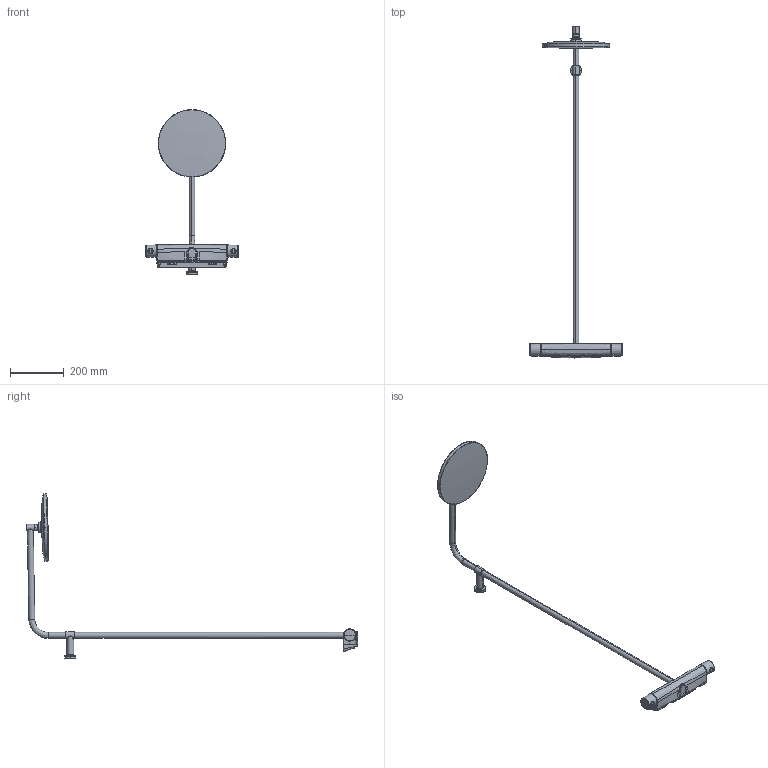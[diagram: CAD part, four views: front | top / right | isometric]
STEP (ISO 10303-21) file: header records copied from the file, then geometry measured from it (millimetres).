
FILE_DESCRIPTION (( 'STEP AP203' ), '1' );
FILE_NAME ('7191N(2023).STEP', '2023-02-09T08:06:27', ( '' ), ( '' ), 'SwSTEP 2.0', 'SolidWorks 2016', '' );
FILE_SCHEMA (( 'CONFIG_CONTROL_DESIGN' ));
Length unit declared in the file: millimetre
Products named in the file (1): 7191N(2023)
Bounding box: 342.65 x 1230.39 x 611.02 mm (x, y, z)
Volume: 2490583.5 mm3; surface area: 341696.1 mm2
Topology: 1 solids, 1 shells, 633 faces, 1538 edges, 912 vertices
Faces by surface type: bspline 392, cylinder 93, plane 71, cone 51, torus 18, sphere 8
Entity records: 42549 total; most frequent: CARTESIAN_POINT 30873, ORIENTED_EDGE 3034, EDGE_CURVE 1517, DIRECTION 1504, VERTEX_POINT 912, B_SPLINE_CURVE_WITH_KNOTS 807, EDGE_LOOP 663, AXIS2_PLACEMENT_3D 636
